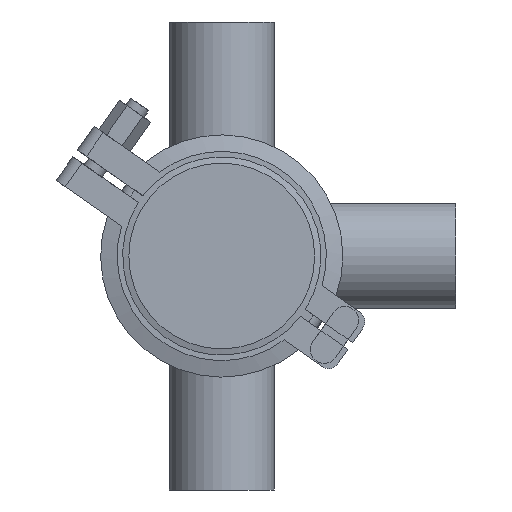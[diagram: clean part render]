
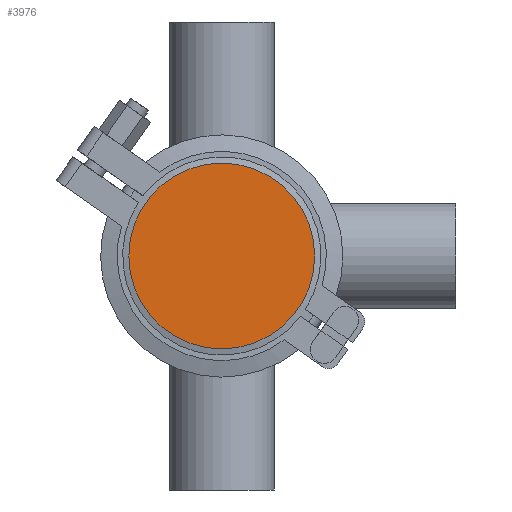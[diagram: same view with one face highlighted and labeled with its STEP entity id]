
A CAD part, front view. The second image highlights one B-rep face of the part: STEP entity #3976.
In plain terms, the highlighted planar face has unit normal (0, -1, 0).
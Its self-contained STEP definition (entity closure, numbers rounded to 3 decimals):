
#699 = VERTEX_POINT ( 'NONE', #13650 ) ;
#1080 = PLANE ( 'NONE',  #16806 ) ;
#2164 = AXIS2_PLACEMENT_3D ( 'NONE', #10433, #5593, #10232 ) ;
#3976 = ADVANCED_FACE ( 'NONE', ( #15174 ), #1080, .T. ) ;
#5593 = DIRECTION ( 'NONE',  ( 0., 1., 0. ) ) ;
#8474 = DIRECTION ( 'NONE',  ( 0., -1., 0. ) ) ;
#10232 = DIRECTION ( 'NONE',  ( 0., 0., 1. ) ) ;
#10433 = CARTESIAN_POINT ( 'NONE',  ( 0., 0., 0. ) ) ;
#13650 = CARTESIAN_POINT ( 'NONE',  ( 0., 0., 33.75 ) ) ;
#14442 = EDGE_LOOP ( 'NONE', ( #17730 ) ) ;
#14761 = DIRECTION ( 'NONE',  ( 0., 0., -1. ) ) ;
#15174 = FACE_OUTER_BOUND ( 'NONE', #14442, .T. ) ;
#16082 = EDGE_CURVE ( 'NONE', #699, #699, #16272, .T. ) ;
#16272 = CIRCLE ( 'NONE', #2164, 33.75 ) ;
#16806 = AXIS2_PLACEMENT_3D ( 'NONE', #18356, #8474, #14761 ) ;
#17730 = ORIENTED_EDGE ( 'NONE', *, *, #16082, .F. ) ;
#18356 = CARTESIAN_POINT ( 'NONE',  ( -33.75, 0., 0. ) ) ;
